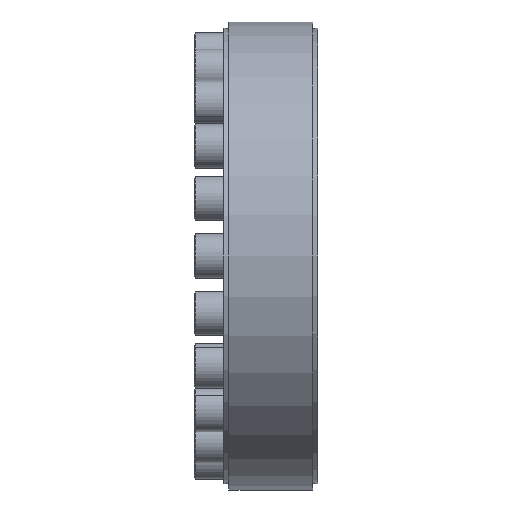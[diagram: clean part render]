
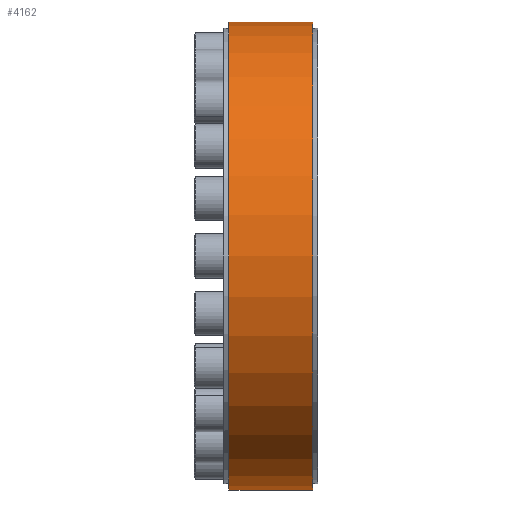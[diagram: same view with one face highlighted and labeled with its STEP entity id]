
A CAD part, front view. The second image highlights one B-rep face of the part: STEP entity #4162.
In plain terms, the highlighted cylindrical face has radius 95 mm (diameter 190 mm), a partial arc.
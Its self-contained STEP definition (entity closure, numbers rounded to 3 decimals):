
#47 = EDGE_CURVE ( 'NONE', #56, #49, #4403, .T. ) ;
#49 = VERTEX_POINT ( 'NONE', #4399 ) ;
#52 = VERTEX_POINT ( 'NONE', #4456 ) ;
#54 = VERTEX_POINT ( 'NONE', #4449 ) ;
#56 = VERTEX_POINT ( 'NONE', #4443 ) ;
#57 = EDGE_CURVE ( 'NONE', #52, #54, #4442, .T. ) ;
#91 = EDGE_CURVE ( 'NONE', #52, #56, #4513, .T. ) ;
#4162 = ADVANCED_FACE ( 'NONE', ( #11238 ), #11237, .T. ) ;
#4166 = ORIENTED_EDGE ( 'NONE', *, *, #4168, .F. ) ;
#4167 = ORIENTED_EDGE ( 'NONE', *, *, #57, .F. ) ;
#4168 = EDGE_CURVE ( 'NONE', #54, #49, #11297, .T. ) ;
#4171 = EDGE_LOOP ( 'NONE', ( #4167, #4172, #4173, #4166 ) ) ;
#4172 = ORIENTED_EDGE ( 'NONE', *, *, #91, .T. ) ;
#4173 = ORIENTED_EDGE ( 'NONE', *, *, #47, .T. ) ;
#4399 = CARTESIAN_POINT ( 'NONE',  ( 2., 0., 95. ) ) ;
#4400 = DIRECTION ( 'NONE',  ( -1., 0., 0. ) ) ;
#4401 = VECTOR ( 'NONE', #4400, 1000. ) ;
#4402 = CARTESIAN_POINT ( 'NONE',  ( 0., 0., 95. ) ) ;
#4403 = LINE ( 'NONE', #4402, #4401 ) ;
#4439 = DIRECTION ( 'NONE',  ( -1., 0., 0. ) ) ;
#4440 = VECTOR ( 'NONE', #4439, 1000. ) ;
#4441 = CARTESIAN_POINT ( 'NONE',  ( 0., 0., -95. ) ) ;
#4442 = LINE ( 'NONE', #4441, #4440 ) ;
#4443 = CARTESIAN_POINT ( 'NONE',  ( 36., 0., 95. ) ) ;
#4449 = CARTESIAN_POINT ( 'NONE',  ( 2., 0., -95. ) ) ;
#4456 = CARTESIAN_POINT ( 'NONE',  ( 36., 0., -95. ) ) ;
#4509 = DIRECTION ( 'NONE',  ( 0., 0., 1. ) ) ;
#4510 = DIRECTION ( 'NONE',  ( -1., 0., 0. ) ) ;
#4511 = CARTESIAN_POINT ( 'NONE',  ( 36., 0., 0. ) ) ;
#4512 = AXIS2_PLACEMENT_3D ( 'NONE', #4511, #4510, #4509 ) ;
#4513 = CIRCLE ( 'NONE', #4512, 95. ) ;
#11236 = CARTESIAN_POINT ( 'NONE',  ( 2., 0., 0. ) ) ;
#11237 = CYLINDRICAL_SURFACE ( 'NONE', #11300, 95. ) ;
#11238 = FACE_OUTER_BOUND ( 'NONE', #4171, .T. ) ;
#11244 = CARTESIAN_POINT ( 'NONE',  ( 0., 0., 0. ) ) ;
#11294 = DIRECTION ( 'NONE',  ( 0., 0., 1. ) ) ;
#11295 = DIRECTION ( 'NONE',  ( -1., 0., 0. ) ) ;
#11296 = AXIS2_PLACEMENT_3D ( 'NONE', #11236, #11295, #11294 ) ;
#11297 = CIRCLE ( 'NONE', #11296, 95. ) ;
#11298 = DIRECTION ( 'NONE',  ( 0., 0., 1. ) ) ;
#11299 = DIRECTION ( 'NONE',  ( -1., 0., 0. ) ) ;
#11300 = AXIS2_PLACEMENT_3D ( 'NONE', #11244, #11299, #11298 ) ;
